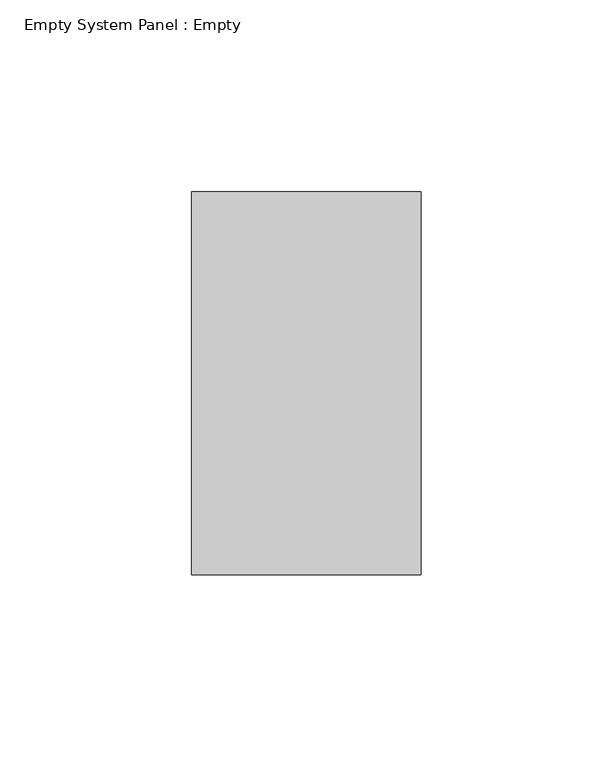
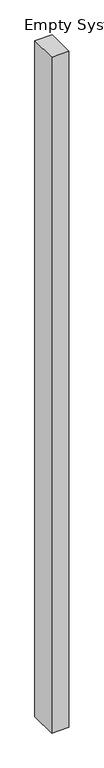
"""IFC4 building model written with IfcOpenShell, lengths in millimetres: plate geometry, Empty System Panel : Empty."""

from ifc_helpers import new_model, si_unit, origin, origin_with_axes, place, context, project, spatial, polyline, outline, extrude, source, transform, mapped, element, save


def empty_system_panel_empty_61b9929b(model_context):
    return source(origin(), model_context, "Body", "SweptSolid", [
        extrude(outline(polyline([(30.0000002, 50.0), (-30.0000002, 50.0), (-30.0000002, 150.0), (30.0000002, 150.0), (30.0000002, 50.0)])), origin_with_axes(), (0.0, 0.0, 1.0), 2475.0),
    ])


if __name__ == "__main__":
    model = new_model("IFC4")
    model_context = context("Model", 3, world=origin())
    ifc_project = project(units=[si_unit("LENGTHUNIT", "METRE", prefix="MILLI")], contexts=[model_context])
    site = spatial("IfcSite", under=ifc_project)
    building = spatial("IfcBuilding", under=site)
    placement = place(None, origin())
    empty_system_panel_empty_shape = empty_system_panel_empty_61b9929b(model_context)
    element("IfcPlate", 1, ObjectType="Empty System Panel : Empty", at=placement, inside=building, context=model_context, shape_type="MappedRepresentation", body=[
        mapped(empty_system_panel_empty_shape, transform((0.0, 0.0, 0.0), x_axis=(1.0, 0.0, 0.0), y_axis=(0.0, 1.0, 0.0), z_axis=(0.0, 0.0, 1.0))),
    ])
    save(model, "model.ifc")
